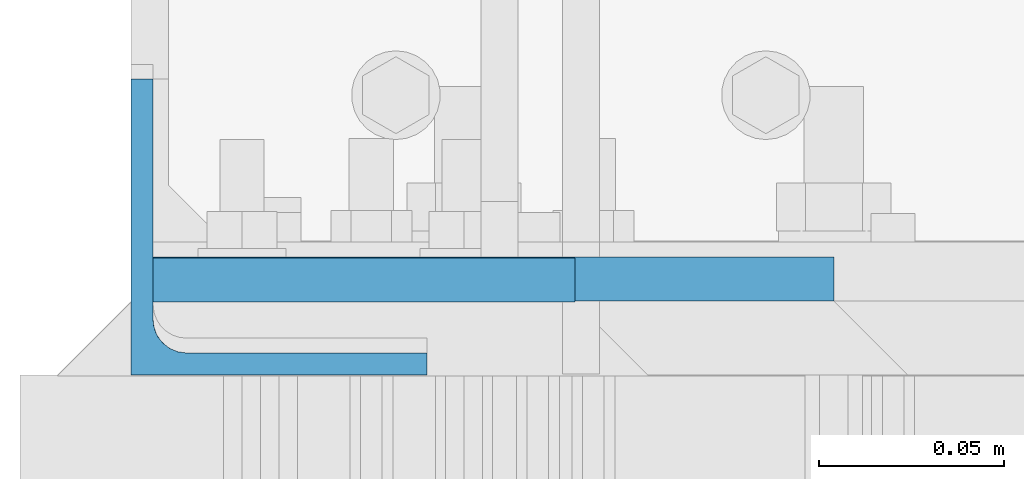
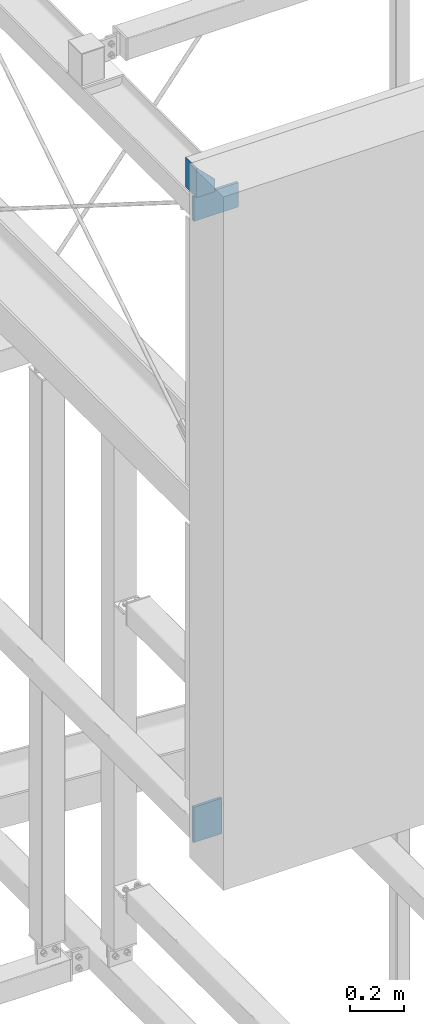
# One storey, part 60 of 271: 3 beams, 3 elements without a shape of their own.
"""IFC2X3 building model written with IfcOpenShell, lengths in millimetres."""

from ifc_helpers import new_model, si_unit, frame, origin_with_axes, origin_2d_with_axis, place, context, subcontext, project, spatial, rectangle, l_section, extrude, clip, halfspace, material, type_object, element, aggregate, save


model = new_model("IFC2X3")

# Units and contexts
model_context = context("Model", 3, precision=1e-05, world=origin_with_axes())
body_context = subcontext(model_context, "Body", "Model", "MODEL_VIEW")
ifc_project = project(units=[si_unit("LENGTHUNIT", "METRE", prefix="MILLI"), si_unit("AREAUNIT", "SQUARE_METRE"), si_unit("VOLUMEUNIT", "CUBIC_METRE"), si_unit("MASSUNIT", "GRAM", prefix="KILO"), si_unit("TIMEUNIT", "SECOND"), si_unit("PLANEANGLEUNIT", "RADIAN"), si_unit("SOLIDANGLEUNIT", "STERADIAN"), si_unit("THERMODYNAMICTEMPERATUREUNIT", "DEGREE_CELSIUS"), si_unit("LUMINOUSINTENSITYUNIT", "LUMEN")], contexts=[model_context])

# Site, building, storey
site_placement = place(None, origin_with_axes())
site = spatial("IfcSite", under=ifc_project, at=site_placement, Name="Undefined", CompositionType="ELEMENT")
building_placement = place(site_placement, origin_with_axes())
building = spatial("IfcBuilding", under=site, at=building_placement, Name="Undefined", CompositionType="ELEMENT")
storey_placement = place(building_placement, origin_with_axes())
storey = spatial("IfcBuildingStorey", under=building, at=storey_placement, Name="Undefined", CompositionType="ELEMENT", Elevation=0.0)

# Assembly, beam
assembly_1_placement = place(storey_placement, origin_with_axes())
assembly_1 = element("IfcElementAssembly", 1, at=assembly_1_placement, inside=storey, AssemblyPlace="NOTDEFINED", PredefinedType="RIGID_FRAME")
ifc_material = material(Name="STEEL/S355JR")
beam_type_1 = type_object("IfcBeamType", Name="BL12*120", PredefinedType="NOTDEFINED")
beam_1_placement = place(assembly_1_placement, frame((48.3756870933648, 25.0521198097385, 17144.3499999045), z_axis=(1.0, 0.0, 0.0), x_axis=(0.0, 0.0, 1.0)))
beam_1 = element("IfcBeam", 2, at=beam_1_placement, type_object=beam_type_1, material=ifc_material, Name="BLACHA_PODSTAWY", ObjectType="BL12*120", context=body_context, shape_type="SweptSolid", body=[
    extrude(rectangle(XDim=12.0, YDim=120.0, at=origin_2d_with_axis()), frame((160.0, 0.0, 0.0), z_axis=(-1.0, 0.0, 1.38777878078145e-17), x_axis=(0.0, -1.0, 0.0)), (0.0, 0.0, 1.0), 160.0),
])
aggregate(assembly_1, [beam_1])

assembly_2_placement = place(storey_placement, origin_with_axes())
assembly_2 = element("IfcElementAssembly", 3, at=assembly_2_placement, inside=storey, AssemblyPlace="NOTDEFINED", PredefinedType="RIGID_FRAME")
beam_type_2 = type_object("IfcBeamType", Name="L80*80*6", PredefinedType="NOTDEFINED")
beam_2_placement = place(assembly_2_placement, frame((28.3756870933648, 39.3249842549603, 20069.3499999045), z_axis=(1.0, 0.0, 0.0), x_axis=(0.0, 0.0, 1.0)))
beam_2 = element("IfcBeam", 4, at=beam_2_placement, type_object=beam_type_2, material=ifc_material, Name="KĄTOWNIK", ObjectType="L80*80*6", context=body_context, shape_type="Clipping", body=[
    clip(extrude(l_section(Depth=80.0, Width=80.0, Thickness=6.0, FilletRadius=9.0, at=origin_2d_with_axis()), frame((135.4, 0.0, 0.0), z_axis=(-1.0, 0.0, 1.38777878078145e-17), x_axis=(0.0, -1.0, 0.0)), (0.0, 0.0, 1.0), 135.4), halfspace(frame((55.0, 0.0, 40.0), z_axis=(-0.707106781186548, 0.0, -0.707106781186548), x_axis=(0.0, -1.0, 0.0)), True)),
])
aggregate(assembly_2, [beam_2])

assembly_3_placement = place(storey_placement, origin_with_axes())
assembly_3 = element("IfcElementAssembly", 5, at=assembly_3_placement, inside=storey, AssemblyPlace="NOTDEFINED", PredefinedType="RIGID_FRAME")
beam_type_3 = type_object("IfcBeamType", Name="BL12*110", PredefinedType="NOTDEFINED")
beam_3_placement = place(assembly_3_placement, frame((-11.6243129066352, 25.3249842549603, 20004.3499999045), z_axis=(0.0, 0.0, -1.0), x_axis=(1.0, 0.0, 0.0)))
beam_3 = element("IfcBeam", 6, at=beam_3_placement, type_object=beam_type_3, material=ifc_material, Name="BLACHA_PODSTAWY", ObjectType="BL12*110", context=body_context, shape_type="SweptSolid", body=[
    extrude(rectangle(XDim=12.0, YDim=110.0, at=origin_2d_with_axis()), frame((190.0, 0.0, 0.0), z_axis=(-1.0, 0.0, 1.38777878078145e-17), x_axis=(0.0, -1.0, 0.0)), (0.0, 0.0, 1.0), 190.0),
])
aggregate(assembly_3, [beam_3])

save(model, "model.ifc")
